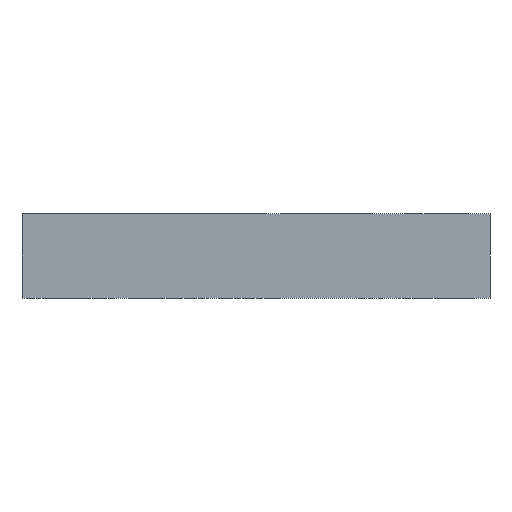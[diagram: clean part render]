
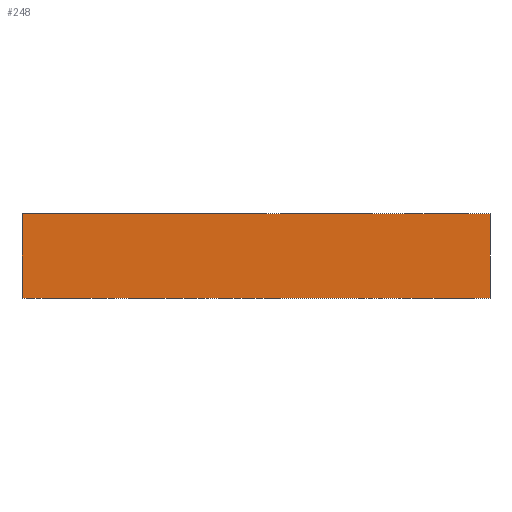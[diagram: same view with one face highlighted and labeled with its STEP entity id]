
A CAD part, left-side view. The second image highlights one B-rep face of the part: STEP entity #248.
In plain terms, the highlighted planar face has unit normal (-1, 0, 0).
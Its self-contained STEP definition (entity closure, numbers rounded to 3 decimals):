
#248 = ADVANCED_FACE( '', ( #683 ), #684, .T. );
#683 = FACE_OUTER_BOUND( '', #2789, .T. );
#684 = PLANE( '', #2790 );
#2789 = EDGE_LOOP( '', ( #4401, #4402, #4403, #4404 ) );
#2790 = AXIS2_PLACEMENT_3D( '', #4405, #4406, #4407 );
#4401 = ORIENTED_EDGE( '', *, *, #4912, .F. );
#4402 = ORIENTED_EDGE( '', *, *, #4935, .F. );
#4403 = ORIENTED_EDGE( '', *, *, #4929, .T. );
#4404 = ORIENTED_EDGE( '', *, *, #4936, .T. );
#4405 = CARTESIAN_POINT( '', ( -100., 100., -36.2 ) );
#4406 = DIRECTION( '', ( -1., 0., 0. ) );
#4407 = DIRECTION( '', ( 0., 0., 1. ) );
#4912 = EDGE_CURVE( '', #5581, #5582, #5583, .T. );
#4929 = EDGE_CURVE( '', #5615, #5616, #5617, .T. );
#4935 = EDGE_CURVE( '', #5615, #5581, #5627, .T. );
#4936 = EDGE_CURVE( '', #5616, #5582, #5628, .T. );
#5581 = VERTEX_POINT( '', #7287 );
#5582 = VERTEX_POINT( '', #7288 );
#5583 = LINE( '', #7289, #7290 );
#5615 = VERTEX_POINT( '', #7325 );
#5616 = VERTEX_POINT( '', #7326 );
#5617 = LINE( '', #7327, #7328 );
#5627 = LINE( '', #7341, #7342 );
#5628 = LINE( '', #7343, #7344 );
#7287 = CARTESIAN_POINT( '', ( -100., 100., 0. ) );
#7288 = CARTESIAN_POINT( '', ( -100., -100., 0. ) );
#7289 = CARTESIAN_POINT( '', ( -100., 100., 0. ) );
#7290 = VECTOR( '', #7999, 1000. );
#7325 = CARTESIAN_POINT( '', ( -100., 100., -36.2 ) );
#7326 = CARTESIAN_POINT( '', ( -100., -100., -36.2 ) );
#7327 = CARTESIAN_POINT( '', ( -100., 100., -36.2 ) );
#7328 = VECTOR( '', #8042, 1000. );
#7341 = CARTESIAN_POINT( '', ( -100., 100., -36.2 ) );
#7342 = VECTOR( '', #8052, 1000. );
#7343 = CARTESIAN_POINT( '', ( -100., -100., -36.2 ) );
#7344 = VECTOR( '', #8053, 1000. );
#7999 = DIRECTION( '', ( 0., -1., 0. ) );
#8042 = DIRECTION( '', ( 0., -1., 0. ) );
#8052 = DIRECTION( '', ( 0., 0., 1. ) );
#8053 = DIRECTION( '', ( 0., 0., 1. ) );
